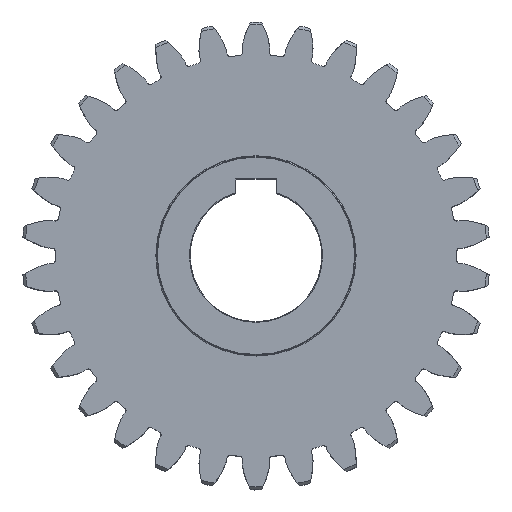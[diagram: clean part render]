
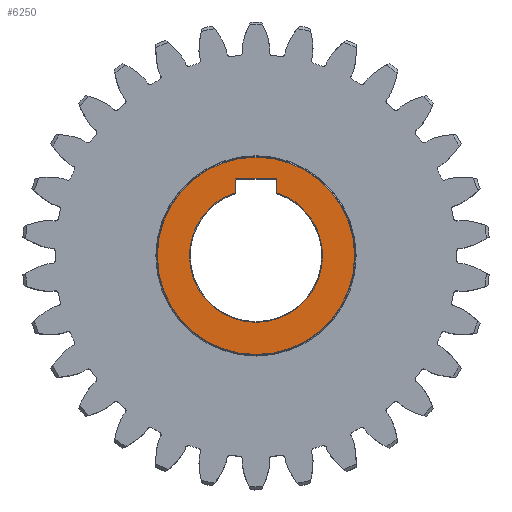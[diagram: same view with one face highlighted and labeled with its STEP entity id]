
A CAD part, top view. The second image highlights one B-rep face of the part: STEP entity #6250.
In plain terms, the highlighted planar face has unit normal (0, 0, 1).
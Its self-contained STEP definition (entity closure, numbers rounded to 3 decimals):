
#792 = AXIS2_PLACEMENT_3D ( 'NONE', #4791, #9434, #3028 ) ;
#972 = CARTESIAN_POINT ( 'NONE',  ( -22.75, 0., 30. ) ) ;
#1085 = VECTOR ( 'NONE', #4620, 1000. ) ;
#1285 = VERTEX_POINT ( 'NONE', #17379 ) ;
#1383 = ORIENTED_EDGE ( 'NONE', *, *, #4554, .T. ) ;
#1509 = ORIENTED_EDGE ( 'NONE', *, *, #3114, .T. ) ;
#1887 = CARTESIAN_POINT ( 'NONE',  ( 7., 21.646, 30. ) ) ;
#2363 = CIRCLE ( 'NONE', #11566, 33.75 ) ;
#2532 = DIRECTION ( 'NONE',  ( 0., -1., 0. ) ) ;
#2800 = EDGE_LOOP ( 'NONE', ( #5816, #19936, #6836, #3307, #1383, #1509 ) ) ;
#2970 = EDGE_CURVE ( 'NONE', #6115, #7815, #18552, .T. ) ;
#3028 = DIRECTION ( 'NONE',  ( 1., 0., 0. ) ) ;
#3114 = EDGE_CURVE ( 'NONE', #10898, #1285, #6272, .T. ) ;
#3229 = EDGE_CURVE ( 'NONE', #17031, #14713, #8651, .T. ) ;
#3307 = ORIENTED_EDGE ( 'NONE', *, *, #17927, .T. ) ;
#4160 = DIRECTION ( 'NONE',  ( 0., 0., 1. ) ) ;
#4554 = EDGE_CURVE ( 'NONE', #9847, #10898, #14474, .T. ) ;
#4620 = DIRECTION ( 'NONE',  ( 1., 0., 0. ) ) ;
#4791 = CARTESIAN_POINT ( 'NONE',  ( 0., 0., 30. ) ) ;
#5524 = CARTESIAN_POINT ( 'NONE',  ( 22.75, 0., 30. ) ) ;
#5816 = ORIENTED_EDGE ( 'NONE', *, *, #8526, .T. ) ;
#6115 = VERTEX_POINT ( 'NONE', #5524 ) ;
#6199 = CARTESIAN_POINT ( 'NONE',  ( 0., 0., 30. ) ) ;
#6250 = ADVANCED_FACE ( 'NONE', ( #7796, #20357 ), #17166, .T. ) ;
#6272 = LINE ( 'NONE', #12345, #1085 ) ;
#6836 = ORIENTED_EDGE ( 'NONE', *, *, #2970, .T. ) ;
#7136 = ORIENTED_EDGE ( 'NONE', *, *, #3229, .T. ) ;
#7796 = FACE_OUTER_BOUND ( 'NONE', #11861, .T. ) ;
#7815 = VERTEX_POINT ( 'NONE', #972 ) ;
#8071 = CARTESIAN_POINT ( 'NONE',  ( 33.75, 0., 30. ) ) ;
#8183 = VERTEX_POINT ( 'NONE', #1887 ) ;
#8333 = CARTESIAN_POINT ( 'NONE',  ( 0., 0., 30. ) ) ;
#8526 = EDGE_CURVE ( 'NONE', #1285, #8183, #16658, .T. ) ;
#8528 = DIRECTION ( 'NONE',  ( 0., 0., -1. ) ) ;
#8651 = CIRCLE ( 'NONE', #16557, 33.75 ) ;
#8818 = CARTESIAN_POINT ( 'NONE',  ( 0., 0., 30. ) ) ;
#9024 = DIRECTION ( 'NONE',  ( 1., 0., 0. ) ) ;
#9165 = DIRECTION ( 'NONE',  ( 0., 0., 1. ) ) ;
#9295 = AXIS2_PLACEMENT_3D ( 'NONE', #8818, #15520, #9024 ) ;
#9434 = DIRECTION ( 'NONE',  ( 0., 0., 1. ) ) ;
#9514 = CARTESIAN_POINT ( 'NONE',  ( -7., 26.3, 30. ) ) ;
#9595 = DIRECTION ( 'NONE',  ( 1., 0., 0. ) ) ;
#9847 = VERTEX_POINT ( 'NONE', #17252 ) ;
#10898 = VERTEX_POINT ( 'NONE', #9514 ) ;
#11566 = AXIS2_PLACEMENT_3D ( 'NONE', #11870, #4160, #19822 ) ;
#11659 = VECTOR ( 'NONE', #19424, 1000. ) ;
#11861 = EDGE_LOOP ( 'NONE', ( #7136, #15765 ) ) ;
#11870 = CARTESIAN_POINT ( 'NONE',  ( 0., 0., 30. ) ) ;
#12276 = AXIS2_PLACEMENT_3D ( 'NONE', #6199, #12465, #9595 ) ;
#12345 = CARTESIAN_POINT ( 'NONE',  ( 7., 26.3, 30. ) ) ;
#12465 = DIRECTION ( 'NONE',  ( 0., 0., -1. ) ) ;
#12762 = EDGE_CURVE ( 'NONE', #14713, #17031, #2363, .T. ) ;
#13825 = CARTESIAN_POINT ( 'NONE',  ( -33.75, 0., 30. ) ) ;
#13854 = EDGE_CURVE ( 'NONE', #8183, #6115, #14047, .T. ) ;
#14047 = CIRCLE ( 'NONE', #18665, 22.75 ) ;
#14377 = CARTESIAN_POINT ( 'NONE',  ( -7., 18.7, 30. ) ) ;
#14474 = LINE ( 'NONE', #14377, #11659 ) ;
#14616 = DIRECTION ( 'NONE',  ( 1., 0., 0. ) ) ;
#14713 = VERTEX_POINT ( 'NONE', #8071 ) ;
#15520 = DIRECTION ( 'NONE',  ( 0., 0., -1. ) ) ;
#15765 = ORIENTED_EDGE ( 'NONE', *, *, #12762, .T. ) ;
#16354 = CARTESIAN_POINT ( 'NONE',  ( 7., 18.7, 30. ) ) ;
#16557 = AXIS2_PLACEMENT_3D ( 'NONE', #20399, #9165, #17417 ) ;
#16658 = LINE ( 'NONE', #16354, #17631 ) ;
#17031 = VERTEX_POINT ( 'NONE', #13825 ) ;
#17166 = PLANE ( 'NONE',  #792 ) ;
#17252 = CARTESIAN_POINT ( 'NONE',  ( -7., 21.646, 30. ) ) ;
#17379 = CARTESIAN_POINT ( 'NONE',  ( 7., 26.3, 30. ) ) ;
#17417 = DIRECTION ( 'NONE',  ( 1., 0., 0. ) ) ;
#17631 = VECTOR ( 'NONE', #2532, 1000. ) ;
#17927 = EDGE_CURVE ( 'NONE', #7815, #9847, #18180, .T. ) ;
#18180 = CIRCLE ( 'NONE', #9295, 22.75 ) ;
#18552 = CIRCLE ( 'NONE', #12276, 22.75 ) ;
#18665 = AXIS2_PLACEMENT_3D ( 'NONE', #8333, #8528, #14616 ) ;
#19424 = DIRECTION ( 'NONE',  ( 0., 1., 0. ) ) ;
#19822 = DIRECTION ( 'NONE',  ( 1., 0., 0. ) ) ;
#19936 = ORIENTED_EDGE ( 'NONE', *, *, #13854, .T. ) ;
#20357 = FACE_BOUND ( 'NONE', #2800, .T. ) ;
#20399 = CARTESIAN_POINT ( 'NONE',  ( 0., 0., 30. ) ) ;
